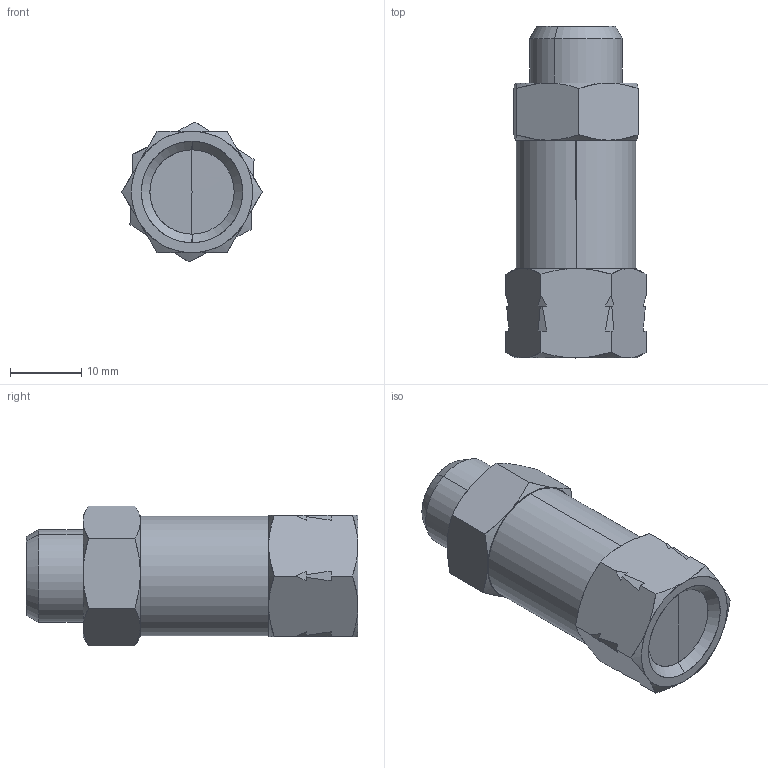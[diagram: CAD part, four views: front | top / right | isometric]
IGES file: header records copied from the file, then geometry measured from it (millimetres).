
Start section: SolidWorks IGES file using analytic representation for surfaces
Global section: file name: K:\Disegni Esecutivi\ACCESSORI\Assiemi\6063\6063_iges\0606300003A.IGS; native system: SolidWorks 2009; preprocessor: SolidWorks 2009; author: cad05; date: 100322.090103; units: millimetre
Bounding box: 19.63 x 46.5 x 19.61 mm (x, y, z)
Surface area: 3001 mm2 (no closed solid volume)
Topology: 0 solids, 0 shells, 80 faces, 1008 edges, 1006 vertices
Faces by surface type: bspline 42, revolution 38
